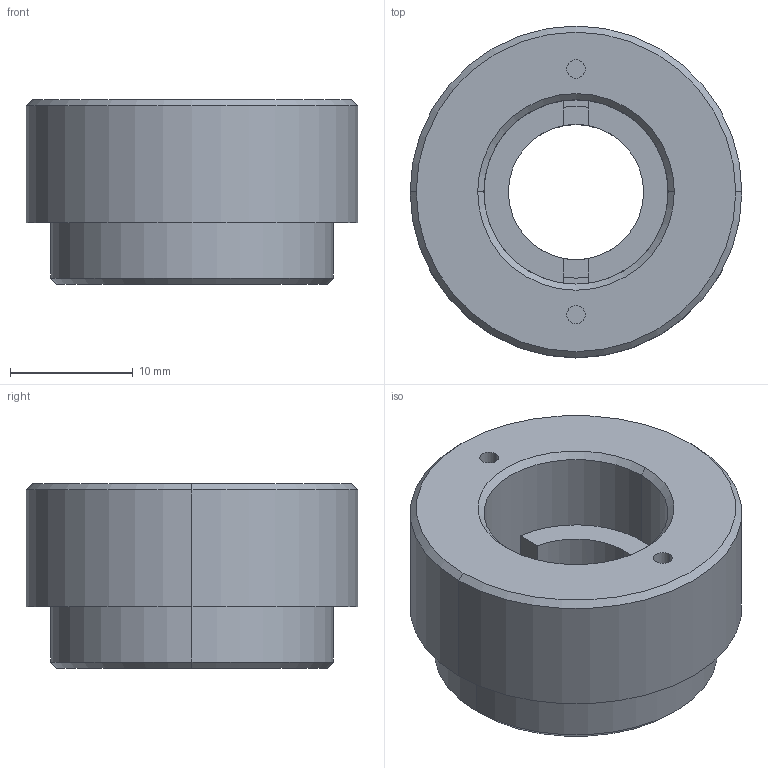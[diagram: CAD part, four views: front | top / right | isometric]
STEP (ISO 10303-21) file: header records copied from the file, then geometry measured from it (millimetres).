
FILE_DESCRIPTION (( 'STEP AP203' ), '1' );
FILE_NAME ('7MA4127变径圈.STEP', '2019-10-24T07:42:04', ( '' ), ( '' ), 'SwSTEP 2.0', 'SolidWorks 2014', '' );
FILE_SCHEMA (( 'CONFIG_CONTROL_DESIGN' ));
Length unit declared in the file: millimetre
Products named in the file (1): 7MA4127变径圈
Bounding box: 27 x 27 x 15 mm (x, y, z)
Surface area: 3068.8 mm2 (no closed solid volume)
Topology: 0 solids, 4 shells, 35 faces, 92 edges, 62 vertices
Faces by surface type: cylinder 18, plane 11, cone 6
Entity records: 1172 total; most frequent: DIRECTION 216, CARTESIAN_POINT 190, ORIENTED_EDGE 154, EDGE_CURVE 92, AXIS2_PLACEMENT_3D 88, VERTEX_POINT 62, CIRCLE 52, EDGE_LOOP 42
